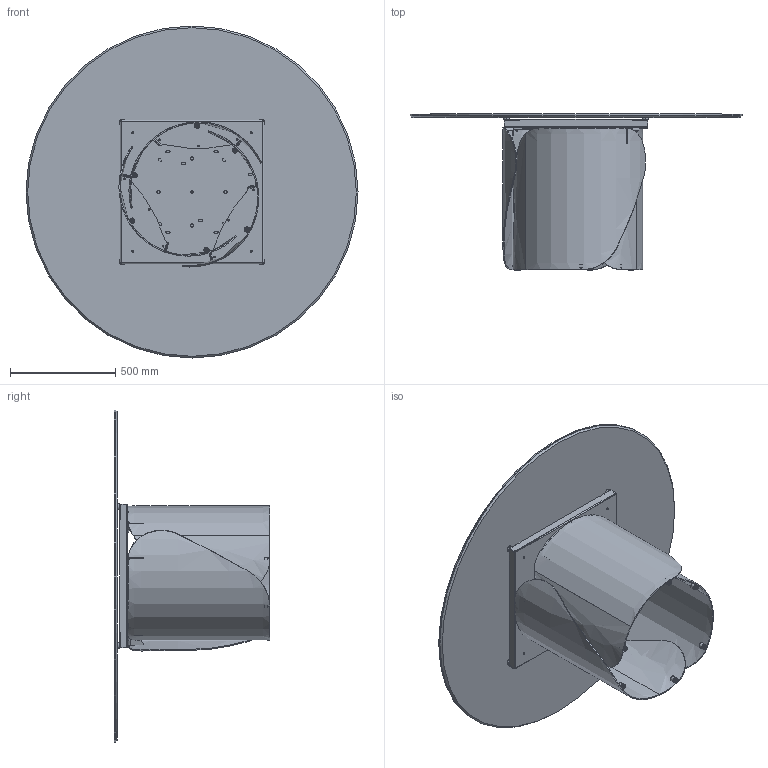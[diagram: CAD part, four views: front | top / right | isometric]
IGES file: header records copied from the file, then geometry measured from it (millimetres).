
Start section: SolidWorks IGES file using analytic representation for surfaces
Global section: file name: Y:\eforma\TECNICO\SOLIDWORKS\E-FORMA\1-TAVOLI\ONDA\02 parts\ON07C.IGS; native system: SolidWorks 2022; preprocessor: SolidWorks 2022; author: eforma.tech; date: 240806.153047; units: millimetre
Bounding box: 1580 x 742 x 1580 mm (x, y, z)
Volume: 41988997.5 mm3; surface area: 12538852.8 mm2
Topology: 63 solids, 63 shells, 1551 faces, 3661 edges, 2272 vertices
Faces by surface type: revolution 863, plane 628, bspline 60
